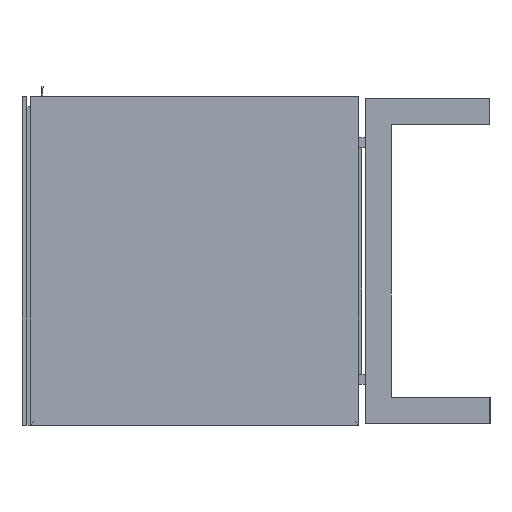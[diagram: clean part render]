
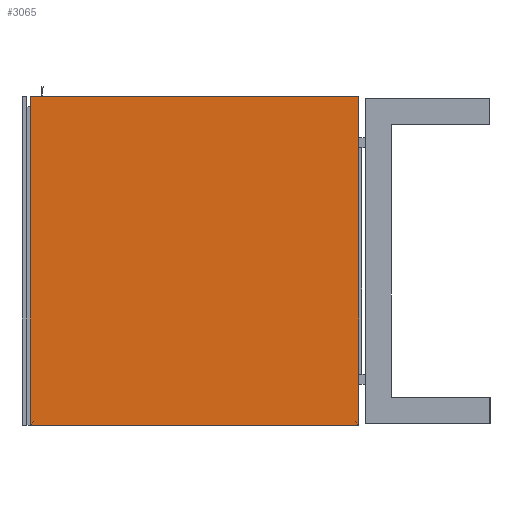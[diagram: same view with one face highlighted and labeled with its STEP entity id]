
A CAD part, left-side view. The second image highlights one B-rep face of the part: STEP entity #3065.
In plain terms, the highlighted planar face has unit normal (-1, 0, 0).
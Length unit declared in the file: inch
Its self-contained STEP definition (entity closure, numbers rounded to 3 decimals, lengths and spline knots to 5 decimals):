
#649=FACE_OUTER_BOUND('',#794,.T.);
#794=EDGE_LOOP('',(#2228,#2229,#2230,#2231));
#945=LINE('',#4240,#1285);
#949=LINE('',#4249,#1289);
#952=LINE('',#4254,#1292);
#953=LINE('',#4256,#1293);
#1285=VECTOR('',#3547,0.3937);
#1289=VECTOR('',#3555,0.3937);
#1292=VECTOR('',#3560,0.3937);
#1293=VECTOR('',#3563,0.3937);
#1622=VERTEX_POINT('',#4233);
#1625=VERTEX_POINT('',#4238);
#1628=VERTEX_POINT('',#4248);
#1629=VERTEX_POINT('',#4252);
#1859=EDGE_CURVE('',#1622,#1625,#945,.T.);
#1863=EDGE_CURVE('',#1622,#1628,#949,.T.);
#1866=EDGE_CURVE('',#1625,#1629,#952,.T.);
#1867=EDGE_CURVE('',#1628,#1629,#953,.T.);
#2228=ORIENTED_EDGE('',*,*,#1859,.T.);
#2229=ORIENTED_EDGE('',*,*,#1866,.T.);
#2230=ORIENTED_EDGE('',*,*,#1867,.F.);
#2231=ORIENTED_EDGE('',*,*,#1863,.F.);
#2928=PLANE('',#3368);
#3065=ADVANCED_FACE('',(#649),#2928,.T.);
#3368=AXIS2_PLACEMENT_3D('',#4255,#3561,#3562);
#3547=DIRECTION('',(0.,-1.,0.));
#3555=DIRECTION('',(0.,0.,1.));
#3560=DIRECTION('',(0.,0.,1.));
#3561=DIRECTION('center_axis',(-1.,0.,0.));
#3562=DIRECTION('ref_axis',(0.,-1.,0.));
#3563=DIRECTION('',(0.,-1.,0.));
#4233=CARTESIAN_POINT('',(0.,25.,0.));
#4238=CARTESIAN_POINT('',(0.,0.,0.));
#4240=CARTESIAN_POINT('',(0.,25.,0.));
#4248=CARTESIAN_POINT('',(0.,25.,25.));
#4249=CARTESIAN_POINT('',(0.,25.,0.));
#4252=CARTESIAN_POINT('',(0.,0.,25.));
#4254=CARTESIAN_POINT('',(0.,0.,0.));
#4255=CARTESIAN_POINT('Origin',(0.,25.,0.));
#4256=CARTESIAN_POINT('',(0.,25.,25.));
